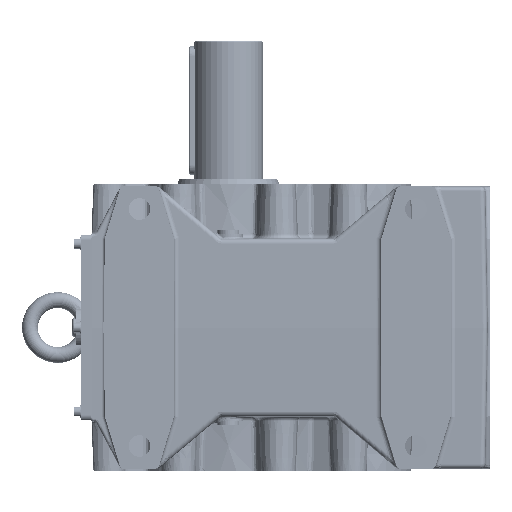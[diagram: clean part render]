
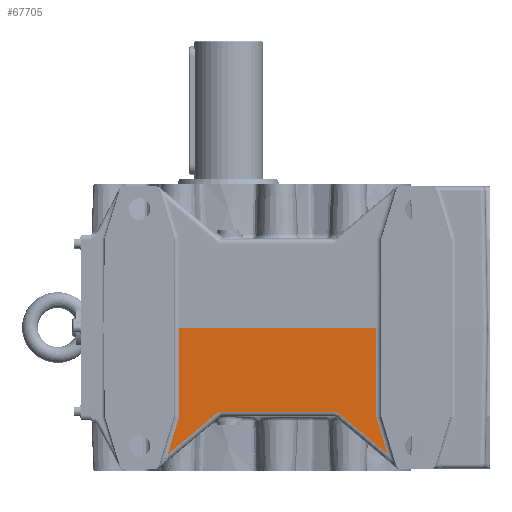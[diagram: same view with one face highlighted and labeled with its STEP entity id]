
A CAD part, left-side view. The second image highlights one B-rep face of the part: STEP entity #67705.
In plain terms, the highlighted planar face has unit normal (-1, 0, -0.018).
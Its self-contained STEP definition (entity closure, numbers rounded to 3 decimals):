
#27871=CARTESIAN_POINT('',(-156.571,-150.0,0.0));
#27872=VERTEX_POINT('',#27871);
#27880=CARTESIAN_POINT('',(-154.989,-150.0,-90.651));
#27881=VERTEX_POINT('',#27880);
#27882=CARTESIAN_POINT('',(-156.571,-150.0,0.));
#27883=DIRECTION('',(0.017,0.0,-1.));
#27884=VECTOR('',#27883,90.665);
#27885=LINE('',#27882,#27884);
#27886=EDGE_CURVE('',#27872,#27881,#27885,.T.);
#28311=CARTESIAN_POINT('',(-156.571,50.,0.0));
#28312=VERTEX_POINT('',#28311);
#28354=CARTESIAN_POINT('',(-154.989,50.,-90.651));
#28355=VERTEX_POINT('',#28354);
#28363=CARTESIAN_POINT('',(-154.989,50.,-90.651));
#28364=DIRECTION('',(-0.017,0.0,1.));
#28365=VECTOR('',#28364,90.665);
#28366=LINE('',#28363,#28365);
#28367=EDGE_CURVE('',#28355,#28312,#28366,.T.);
#57596=CARTESIAN_POINT('',(-155.045,12.445,-87.427));
#57597=VERTEX_POINT('',#57596);
#57605=CARTESIAN_POINT('',(-154.327,61.437,-128.536));
#57606=VERTEX_POINT('',#57605);
#57607=CARTESIAN_POINT('',(-155.045,12.445,-87.427));
#57608=DIRECTION('',(0.011,0.766,-0.643));
#57609=VECTOR('',#57608,63.958);
#57610=LINE('',#57607,#57609);
#57611=EDGE_CURVE('',#57597,#57606,#57610,.T.);
#57653=CARTESIAN_POINT('',(-155.086,6.017,-85.087));
#57654=VERTEX_POINT('',#57653);
#57662=CARTESIAN_POINT('',(-154.911,6.017,-95.087));
#57663=DIRECTION('',(-1.,0.,-0.017));
#57664=DIRECTION('',(-0.017,0.,1.));
#57665=AXIS2_PLACEMENT_3D('',#57662,#57663,#57664);
#57666=ELLIPSE('',#57665,10.002,10.);
#57667=EDGE_CURVE('',#57654,#57597,#57666,.T.);
#57687=CARTESIAN_POINT('',(-155.086,-106.017,-85.087));
#57688=VERTEX_POINT('',#57687);
#57696=CARTESIAN_POINT('',(-155.086,-106.017,-85.087));
#57697=DIRECTION('',(0.0,1.0,0.0));
#57698=VECTOR('',#57697,112.034);
#57699=LINE('',#57696,#57698);
#57700=EDGE_CURVE('',#57688,#57654,#57699,.T.);
#67492=CARTESIAN_POINT('',(-154.327,-161.437,-128.536));
#67493=VERTEX_POINT('',#67492);
#67524=CARTESIAN_POINT('',(-155.045,-112.445,-87.427));
#67525=VERTEX_POINT('',#67524);
#67535=CARTESIAN_POINT('',(-154.327,-161.437,-128.536));
#67536=DIRECTION('',(-0.011,0.766,0.643));
#67537=VECTOR('',#67536,63.958);
#67538=LINE('',#67535,#67537);
#67539=EDGE_CURVE('',#67493,#67525,#67538,.T.);
#67572=CARTESIAN_POINT('',(-154.911,-106.017,-95.087));
#67573=DIRECTION('',(-1.,0.,-0.017));
#67574=DIRECTION('',(-0.017,0.,1.));
#67575=AXIS2_PLACEMENT_3D('',#67572,#67573,#67574);
#67576=ELLIPSE('',#67575,10.002,10.0);
#67577=EDGE_CURVE('',#67525,#57688,#67576,.T.);
#67667=CARTESIAN_POINT('',(-154.327,61.437,-128.536));
#67668=DIRECTION('',(-0.017,-0.289,0.957));
#67669=VECTOR('',#67668,39.579);
#67670=LINE('',#67667,#67669);
#67671=EDGE_CURVE('',#57606,#28355,#67670,.T.);
#67678=CARTESIAN_POINT('',(-156.571,-260.0,-0.014));
#67679=DIRECTION('',(1.,0.,0.017));
#67680=DIRECTION('',(0.017,0.,-1.));
#67681=AXIS2_PLACEMENT_3D('',#67678,#67679,#67680);
#67682=PLANE('',#67681);
#67683=ORIENTED_EDGE('',*,*,#57611,.F.);
#67684=ORIENTED_EDGE('',*,*,#57667,.F.);
#67685=ORIENTED_EDGE('',*,*,#57700,.F.);
#67686=ORIENTED_EDGE('',*,*,#67577,.F.);
#67687=ORIENTED_EDGE('',*,*,#67539,.F.);
#67688=CARTESIAN_POINT('',(-154.989,-150.0,-90.651));
#67689=DIRECTION('',(0.017,-0.289,-0.957));
#67690=VECTOR('',#67689,39.579);
#67691=LINE('',#67688,#67690);
#67692=EDGE_CURVE('',#27881,#67493,#67691,.T.);
#67693=ORIENTED_EDGE('',*,*,#67692,.F.);
#67694=ORIENTED_EDGE('',*,*,#27886,.F.);
#67695=CARTESIAN_POINT('',(-156.571,-150.0,0.0));
#67696=DIRECTION('',(0.0,1.0,0.0));
#67697=VECTOR('',#67696,200.);
#67698=LINE('',#67695,#67697);
#67699=EDGE_CURVE('',#28312,#27872,#67698,.F.);
#67700=ORIENTED_EDGE('',*,*,#67699,.F.);
#67701=ORIENTED_EDGE('',*,*,#28367,.F.);
#67702=ORIENTED_EDGE('',*,*,#67671,.F.);
#67703=EDGE_LOOP('',(#67683,#67684,#67685,#67686,#67687,#67693,#67694,#67700,#67701,#67702));
#67704=FACE_OUTER_BOUND('',#67703,.T.);
#67705=ADVANCED_FACE('',(#67704),#67682,.F.);
